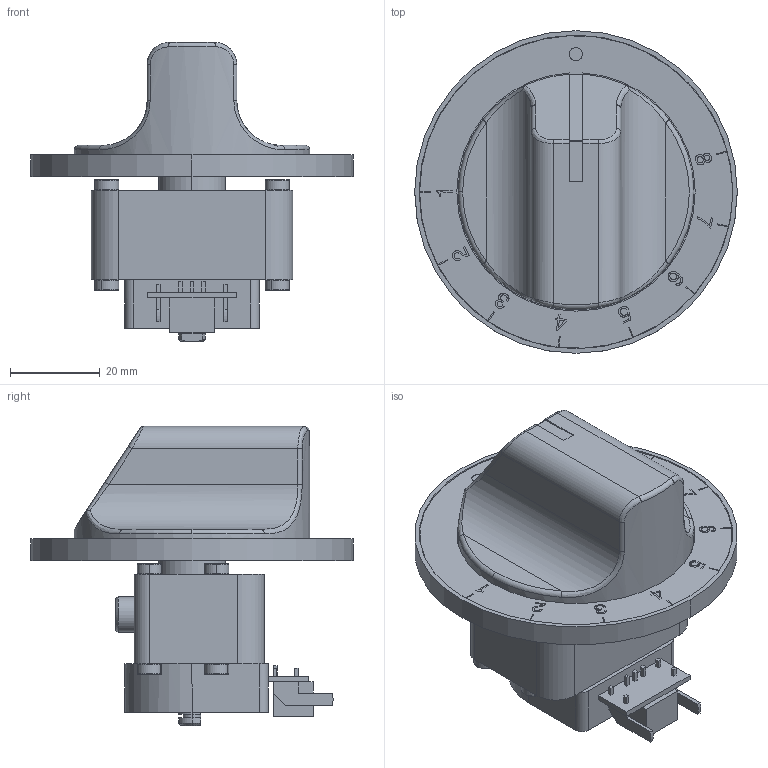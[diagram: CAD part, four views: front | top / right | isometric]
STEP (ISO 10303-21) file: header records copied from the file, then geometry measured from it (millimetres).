
FILE_DESCRIPTION (( 'STEP AP214' ), '1' );
FILE_NAME ('Drehwinkelschalter WOK.STEP', '2019-02-14T07:59:30', ( '' ), ( '' ), 'SwSTEP 2.0', 'SolidWorks 2018', '' );
FILE_SCHEMA (( 'AUTOMOTIVE_DESIGN' ));
Length unit declared in the file: millimetre
Products named in the file (1): Drehwinkelschalter WOK
Bounding box: 72 x 72 x 66.8 mm (x, y, z)
Volume: 82196.4 mm3; surface area: 20508.1 mm2
Topology: 1 solids, 1 shells, 395 faces, 996 edges, 636 vertices
Faces by surface type: plane 201, bspline 73, cylinder 64, torus 36, cone 21
Entity records: 12822 total; most frequent: CARTESIAN_POINT 3607, ORIENTED_EDGE 1960, DIRECTION 1715, EDGE_CURVE 980, VERTEX_POINT 636, LINE 583, VECTOR 583, AXIS2_PLACEMENT_3D 566
